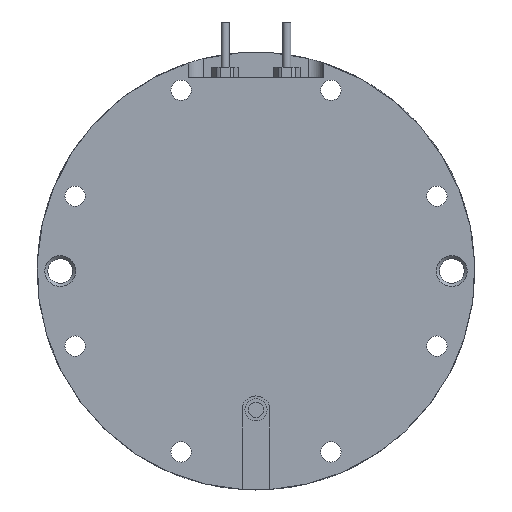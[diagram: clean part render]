
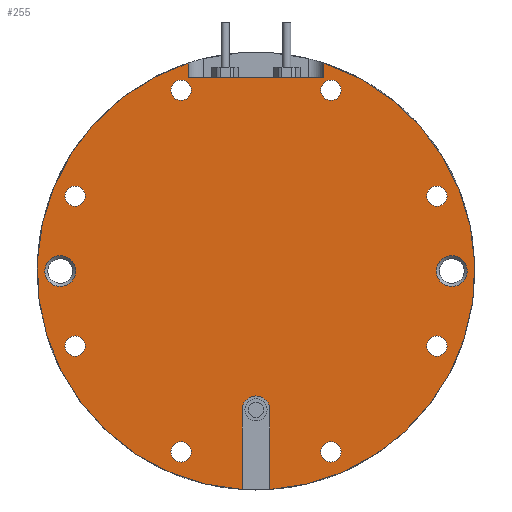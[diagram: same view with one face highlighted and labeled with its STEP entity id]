
A CAD part, front view. The second image highlights one B-rep face of the part: STEP entity #255.
In plain terms, the highlighted planar face has unit normal (0, -1, 0).
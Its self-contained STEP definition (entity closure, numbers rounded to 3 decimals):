
#255 = ADVANCED_FACE( '', ( #644, #645, #646, #647, #648, #649, #650, #651, #652, #653, #654 ), #655, .F. );
#644 = FACE_OUTER_BOUND( '', #1311, .T. );
#645 = FACE_BOUND( '', #1312, .T. );
#646 = FACE_BOUND( '', #1313, .T. );
#647 = FACE_BOUND( '', #1314, .T. );
#648 = FACE_BOUND( '', #1315, .T. );
#649 = FACE_BOUND( '', #1316, .T. );
#650 = FACE_BOUND( '', #1317, .T. );
#651 = FACE_BOUND( '', #1318, .T. );
#652 = FACE_BOUND( '', #1319, .T. );
#653 = FACE_BOUND( '', #1320, .T. );
#654 = FACE_BOUND( '', #1321, .T. );
#655 = PLANE( '', #1322 );
#1311 = EDGE_LOOP( '', ( #2363, #2364, #2365, #2366, #2367, #2368, #2369, #2370 ) );
#1312 = EDGE_LOOP( '', ( #2371 ) );
#1313 = EDGE_LOOP( '', ( #2372 ) );
#1314 = EDGE_LOOP( '', ( #2373 ) );
#1315 = EDGE_LOOP( '', ( #2374 ) );
#1316 = EDGE_LOOP( '', ( #2375 ) );
#1317 = EDGE_LOOP( '', ( #2376 ) );
#1318 = EDGE_LOOP( '', ( #2377 ) );
#1319 = EDGE_LOOP( '', ( #2378 ) );
#1320 = EDGE_LOOP( '', ( #2379 ) );
#1321 = EDGE_LOOP( '', ( #2380 ) );
#1322 = AXIS2_PLACEMENT_3D( '', #2381, #2382, #2383 );
#2363 = ORIENTED_EDGE( '', *, *, #3744, .T. );
#2364 = ORIENTED_EDGE( '', *, *, #3525, .T. );
#2365 = ORIENTED_EDGE( '', *, *, #3668, .F. );
#2366 = ORIENTED_EDGE( '', *, *, #3671, .F. );
#2367 = ORIENTED_EDGE( '', *, *, #3665, .F. );
#2368 = ORIENTED_EDGE( '', *, *, #3529, .T. );
#2369 = ORIENTED_EDGE( '', *, *, #3745, .F. );
#2370 = ORIENTED_EDGE( '', *, *, #3746, .T. );
#2371 = ORIENTED_EDGE( '', *, *, #3569, .F. );
#2372 = ORIENTED_EDGE( '', *, *, #3575, .F. );
#2373 = ORIENTED_EDGE( '', *, *, #3591, .F. );
#2374 = ORIENTED_EDGE( '', *, *, #3589, .F. );
#2375 = ORIENTED_EDGE( '', *, *, #3587, .F. );
#2376 = ORIENTED_EDGE( '', *, *, #3585, .F. );
#2377 = ORIENTED_EDGE( '', *, *, #3583, .F. );
#2378 = ORIENTED_EDGE( '', *, *, #3581, .F. );
#2379 = ORIENTED_EDGE( '', *, *, #3593, .F. );
#2380 = ORIENTED_EDGE( '', *, *, #3595, .F. );
#2381 = CARTESIAN_POINT( '', ( 71., 0., 0. ) );
#2382 = DIRECTION( '', ( 0., 1., 0. ) );
#2383 = DIRECTION( '', ( 0., 0., 1. ) );
#3525 = EDGE_CURVE( '', #4029, #4027, #4030, .T. );
#3529 = EDGE_CURVE( '', #4037, #4035, #4038, .T. );
#3569 = EDGE_CURVE( '', #4113, #4113, #4114, .T. );
#3575 = EDGE_CURVE( '', #4125, #4125, #4126, .T. );
#3581 = EDGE_CURVE( '', #4137, #4137, #4138, .T. );
#3583 = EDGE_CURVE( '', #4141, #4141, #4142, .T. );
#3585 = EDGE_CURVE( '', #4145, #4145, #4146, .T. );
#3587 = EDGE_CURVE( '', #4149, #4149, #4150, .T. );
#3589 = EDGE_CURVE( '', #4153, #4153, #4154, .T. );
#3591 = EDGE_CURVE( '', #4157, #4157, #4158, .T. );
#3593 = EDGE_CURVE( '', #4161, #4161, #4162, .T. );
#3595 = EDGE_CURVE( '', #4165, #4165, #4166, .T. );
#3665 = EDGE_CURVE( '', #4037, #4271, #4272, .T. );
#3668 = EDGE_CURVE( '', #4274, #4027, #4276, .T. );
#3671 = EDGE_CURVE( '', #4271, #4274, #4281, .T. );
#3744 = EDGE_CURVE( '', #4414, #4029, #4415, .T. );
#3745 = EDGE_CURVE( '', #4416, #4035, #4417, .T. );
#3746 = EDGE_CURVE( '', #4416, #4414, #4418, .T. );
#4027 = VERTEX_POINT( '', #4973 );
#4029 = VERTEX_POINT( '', #4976 );
#4030 = CIRCLE( '', #4977, 71. );
#4035 = VERTEX_POINT( '', #4983 );
#4037 = VERTEX_POINT( '', #4986 );
#4038 = CIRCLE( '', #4987, 71. );
#4113 = VERTEX_POINT( '', #5193 );
#4114 = CIRCLE( '', #5194, 5. );
#4125 = VERTEX_POINT( '', #5205 );
#4126 = CIRCLE( '', #5206, 5. );
#4137 = VERTEX_POINT( '', #5217 );
#4138 = CIRCLE( '', #5218, 3.3 );
#4141 = VERTEX_POINT( '', #5221 );
#4142 = CIRCLE( '', #5222, 3.3 );
#4145 = VERTEX_POINT( '', #5225 );
#4146 = CIRCLE( '', #5226, 3.3 );
#4149 = VERTEX_POINT( '', #5229 );
#4150 = CIRCLE( '', #5230, 3.3 );
#4153 = VERTEX_POINT( '', #5233 );
#4154 = CIRCLE( '', #5234, 3.3 );
#4157 = VERTEX_POINT( '', #5237 );
#4158 = CIRCLE( '', #5238, 3.3 );
#4161 = VERTEX_POINT( '', #5241 );
#4162 = CIRCLE( '', #5242, 3.3 );
#4165 = VERTEX_POINT( '', #5245 );
#4166 = CIRCLE( '', #5246, 3.3 );
#4271 = VERTEX_POINT( '', #5402 );
#4272 = LINE( '', #5403, #5404 );
#4274 = VERTEX_POINT( '', #5407 );
#4276 = LINE( '', #5410, #5411 );
#4281 = LINE( '', #5416, #5417 );
#4414 = VERTEX_POINT( '', #5598 );
#4415 = LINE( '', #5599, #5600 );
#4416 = VERTEX_POINT( '', #5601 );
#4417 = LINE( '', #5602, #5603 );
#4418 = CIRCLE( '', #5604, 4.5 );
#4973 = CARTESIAN_POINT( '', ( 67.506, 0., -22. ) );
#4976 = CARTESIAN_POINT( '', ( -70.857, 0., -4.5 ) );
#4977 = AXIS2_PLACEMENT_3D( '', #6283, #6284, #6285 );
#4983 = CARTESIAN_POINT( '', ( -70.857, 0., 4.5 ) );
#4986 = CARTESIAN_POINT( '', ( 67.506, 0., 22. ) );
#4987 = AXIS2_PLACEMENT_3D( '', #6291, #6292, #6293 );
#5193 = CARTESIAN_POINT( '', ( 0., 0., -68.5 ) );
#5194 = AXIS2_PLACEMENT_3D( '', #6364, #6365, #6366 );
#5205 = CARTESIAN_POINT( '', ( 0., 0., 58.5 ) );
#5206 = AXIS2_PLACEMENT_3D( '', #6382, #6383, #6384 );
#5217 = CARTESIAN_POINT( '', ( -24.3, 0., -61.966 ) );
#5218 = AXIS2_PLACEMENT_3D( '', #6400, #6401, #6402 );
#5221 = CARTESIAN_POINT( '', ( -58.666, 0., -27.6 ) );
#5222 = AXIS2_PLACEMENT_3D( '', #6406, #6407, #6408 );
#5225 = CARTESIAN_POINT( '', ( -58.666, 0., 21. ) );
#5226 = AXIS2_PLACEMENT_3D( '', #6412, #6413, #6414 );
#5229 = CARTESIAN_POINT( '', ( -24.3, 0., 55.366 ) );
#5230 = AXIS2_PLACEMENT_3D( '', #6418, #6419, #6420 );
#5233 = CARTESIAN_POINT( '', ( 24.3, 0., 55.366 ) );
#5234 = AXIS2_PLACEMENT_3D( '', #6424, #6425, #6426 );
#5237 = CARTESIAN_POINT( '', ( 58.666, 0., 21. ) );
#5238 = AXIS2_PLACEMENT_3D( '', #6430, #6431, #6432 );
#5241 = CARTESIAN_POINT( '', ( 24.3, 0., -61.966 ) );
#5242 = AXIS2_PLACEMENT_3D( '', #6436, #6437, #6438 );
#5245 = CARTESIAN_POINT( '', ( 58.666, 0., -27.6 ) );
#5246 = AXIS2_PLACEMENT_3D( '', #6442, #6443, #6444 );
#5402 = CARTESIAN_POINT( '', ( 62.7, 0., 22. ) );
#5403 = CARTESIAN_POINT( '', ( 71., 0., 22. ) );
#5404 = VECTOR( '', #6550, 1000. );
#5407 = CARTESIAN_POINT( '', ( 62.7, 0., -22. ) );
#5410 = CARTESIAN_POINT( '', ( 71., 0., -22. ) );
#5411 = VECTOR( '', #6553, 1000. );
#5416 = CARTESIAN_POINT( '', ( 62.7, 0., 0. ) );
#5417 = VECTOR( '', #6560, 1000. );
#5598 = CARTESIAN_POINT( '', ( -45., 0., -4.5 ) );
#5599 = CARTESIAN_POINT( '', ( -45., 0., -4.5 ) );
#5600 = VECTOR( '', #6681, 1000. );
#5601 = CARTESIAN_POINT( '', ( -45., 0., 4.5 ) );
#5602 = CARTESIAN_POINT( '', ( 71., 0., 4.5 ) );
#5603 = VECTOR( '', #6682, 1000. );
#5604 = AXIS2_PLACEMENT_3D( '', #6683, #6684, #6685 );
#6283 = CARTESIAN_POINT( '', ( 0., 0., 0. ) );
#6284 = DIRECTION( '', ( 0., -1., 0. ) );
#6285 = DIRECTION( '', ( 0., 0., -1. ) );
#6291 = CARTESIAN_POINT( '', ( 0., 0., 0. ) );
#6292 = DIRECTION( '', ( 0., -1., 0. ) );
#6293 = DIRECTION( '', ( 0., 0., -1. ) );
#6364 = CARTESIAN_POINT( '', ( 0., 0., -63.5 ) );
#6365 = DIRECTION( '', ( 0., -1., 0. ) );
#6366 = DIRECTION( '', ( 0., 0., -1. ) );
#6382 = CARTESIAN_POINT( '', ( 0., 0., 63.5 ) );
#6383 = DIRECTION( '', ( 0., -1., 0. ) );
#6384 = DIRECTION( '', ( 0., 0., -1. ) );
#6400 = CARTESIAN_POINT( '', ( -24.3, 0., -58.666 ) );
#6401 = DIRECTION( '', ( 0., -1., 0. ) );
#6402 = DIRECTION( '', ( 0., 0., -1. ) );
#6406 = CARTESIAN_POINT( '', ( -58.666, 0., -24.3 ) );
#6407 = DIRECTION( '', ( 0., -1., 0. ) );
#6408 = DIRECTION( '', ( 0., 0., -1. ) );
#6412 = CARTESIAN_POINT( '', ( -58.666, 0., 24.3 ) );
#6413 = DIRECTION( '', ( 0., -1., 0. ) );
#6414 = DIRECTION( '', ( 0., 0., -1. ) );
#6418 = CARTESIAN_POINT( '', ( -24.3, 0., 58.666 ) );
#6419 = DIRECTION( '', ( 0., -1., 0. ) );
#6420 = DIRECTION( '', ( 0., 0., -1. ) );
#6424 = CARTESIAN_POINT( '', ( 24.3, 0., 58.666 ) );
#6425 = DIRECTION( '', ( 0., -1., 0. ) );
#6426 = DIRECTION( '', ( 0., 0., -1. ) );
#6430 = CARTESIAN_POINT( '', ( 58.666, 0., 24.3 ) );
#6431 = DIRECTION( '', ( 0., -1., 0. ) );
#6432 = DIRECTION( '', ( 0., 0., -1. ) );
#6436 = CARTESIAN_POINT( '', ( 24.3, 0., -58.666 ) );
#6437 = DIRECTION( '', ( 0., -1., 0. ) );
#6438 = DIRECTION( '', ( 0., 0., -1. ) );
#6442 = CARTESIAN_POINT( '', ( 58.666, 0., -24.3 ) );
#6443 = DIRECTION( '', ( 0., -1., 0. ) );
#6444 = DIRECTION( '', ( 0., 0., -1. ) );
#6550 = DIRECTION( '', ( -1., 0., 0. ) );
#6553 = DIRECTION( '', ( 1., 0., 0. ) );
#6560 = DIRECTION( '', ( 0., 0., -1. ) );
#6681 = DIRECTION( '', ( -1., 0., 0. ) );
#6682 = DIRECTION( '', ( -1., 0., 0. ) );
#6683 = CARTESIAN_POINT( '', ( -45., 0., 0. ) );
#6684 = DIRECTION( '', ( 0., 1., 0. ) );
#6685 = DIRECTION( '', ( 1., 0., 0. ) );
